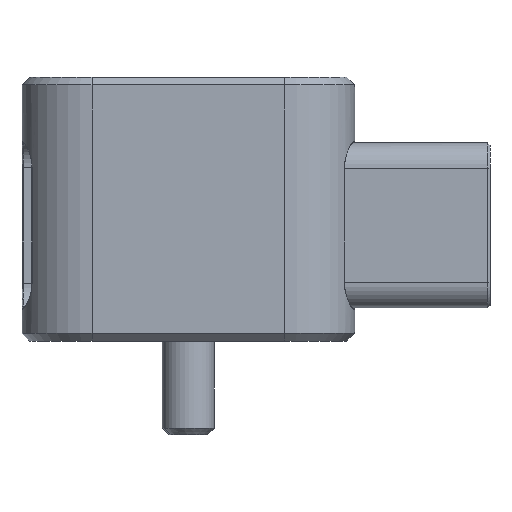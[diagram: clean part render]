
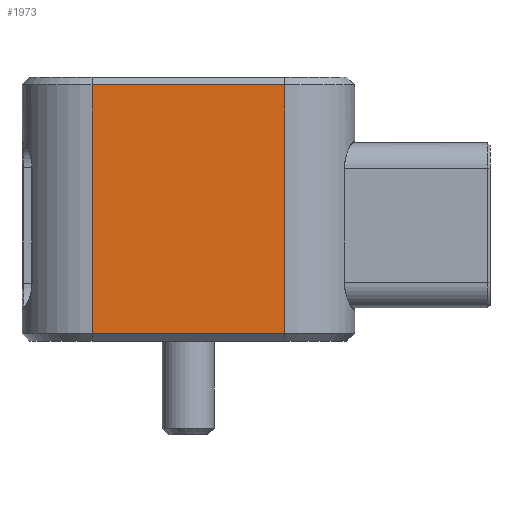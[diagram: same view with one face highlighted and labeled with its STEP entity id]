
A CAD part, front view. The second image highlights one B-rep face of the part: STEP entity #1973.
In plain terms, the highlighted planar face has unit normal (0, -1, 0).
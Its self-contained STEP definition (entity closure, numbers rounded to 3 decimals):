
#1846 = ORIENTED_EDGE ( 'NONE', *, *, #1875, .T. ) ;
#1865 = EDGE_CURVE ( 'NONE', #11441, #11442, #6824, .T. ) ;
#1874 = EDGE_CURVE ( 'NONE', #11440, #11441, #6853, .T. ) ;
#1875 = EDGE_CURVE ( 'NONE', #11439, #11440, #6855, .T. ) ;
#1876 = EDGE_CURVE ( 'NONE', #11442, #11439, #6857, .T. ) ;
#1965 = ORIENTED_EDGE ( 'NONE', *, *, #1874, .T. ) ;
#1966 = ORIENTED_EDGE ( 'NONE', *, *, #1865, .T. ) ;
#1967 = ORIENTED_EDGE ( 'NONE', *, *, #1876, .T. ) ;
#1973 = ADVANCED_FACE ( 'NONE', ( #6935 ), #7096, .T. ) ;
#6631 = AXIS2_PLACEMENT_3D ( 'NONE', #7087, #7101, #7102 ) ;
#6739 = CARTESIAN_POINT ( 'NONE',  ( 9.259, -13., -25.4 ) ) ;
#6742 = DIRECTION ( 'NONE',  ( 0., 0., 1. ) ) ;
#6760 = CARTESIAN_POINT ( 'NONE',  ( -15.99, -13., -24.638 ) ) ;
#6761 = DIRECTION ( 'NONE',  ( 1., 0., 0. ) ) ;
#6762 = CARTESIAN_POINT ( 'NONE',  ( -9.259, -13., -25.4 ) ) ;
#6763 = DIRECTION ( 'NONE',  ( 0., 0., -1. ) ) ;
#6764 = CARTESIAN_POINT ( 'NONE',  ( -9.259, -13., -0.762 ) ) ;
#6765 = DIRECTION ( 'NONE',  ( -1., 0., 0. ) ) ;
#6824 = LINE ( 'NONE', #6739, #6836 ) ;
#6836 = VECTOR ( 'NONE', #6742, 1000. ) ;
#6853 = LINE ( 'NONE', #6760, #6854 ) ;
#6854 = VECTOR ( 'NONE', #6761, 1000. ) ;
#6855 = LINE ( 'NONE', #6762, #6856 ) ;
#6856 = VECTOR ( 'NONE', #6763, 1000. ) ;
#6857 = LINE ( 'NONE', #6764, #6858 ) ;
#6858 = VECTOR ( 'NONE', #6765, 1000. ) ;
#6935 = FACE_OUTER_BOUND ( 'NONE', #11685, .T. ) ;
#7087 = CARTESIAN_POINT ( 'NONE',  ( -15.99, -13., -25.4 ) ) ;
#7096 = PLANE ( 'NONE',  #6631 ) ;
#7101 = DIRECTION ( 'NONE',  ( 0., -1., 0. ) ) ;
#7102 = DIRECTION ( 'NONE',  ( 0., 0., -1. ) ) ;
#10438 = CARTESIAN_POINT ( 'NONE',  ( -9.259, -13., -24.638 ) ) ;
#10443 = CARTESIAN_POINT ( 'NONE',  ( -9.259, -13., -0.762 ) ) ;
#10444 = CARTESIAN_POINT ( 'NONE',  ( 9.259, -13., -24.638 ) ) ;
#10445 = CARTESIAN_POINT ( 'NONE',  ( 9.259, -13., -0.762 ) ) ;
#11439 = VERTEX_POINT ( 'NONE', #10443 ) ;
#11440 = VERTEX_POINT ( 'NONE', #10438 ) ;
#11441 = VERTEX_POINT ( 'NONE', #10444 ) ;
#11442 = VERTEX_POINT ( 'NONE', #10445 ) ;
#11685 = EDGE_LOOP ( 'NONE', ( #1846, #1965, #1966, #1967 ) ) ;
